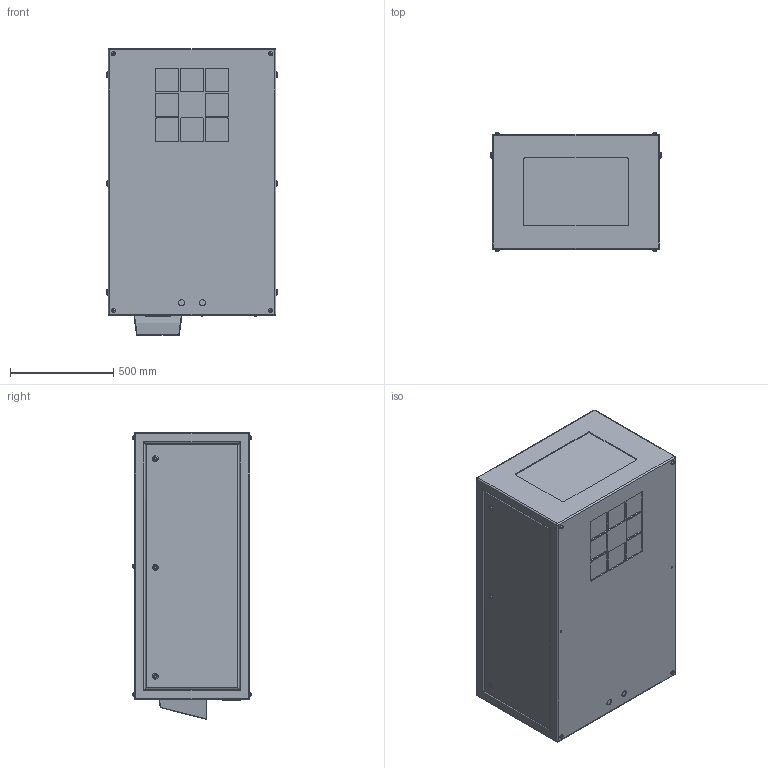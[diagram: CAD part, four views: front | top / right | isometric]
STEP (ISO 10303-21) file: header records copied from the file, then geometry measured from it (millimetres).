
FILE_DESCRIPTION (( 'STEP AP214' ), '1' );
FILE_NAME ('Cyclone 55.210.L.xx R08.STEP', '2020-04-24T15:36:59', ( '' ), ( '' ), 'SwSTEP 2.0', 'SolidWorks 2018', '' );
FILE_SCHEMA (( 'AUTOMOTIVE_DESIGN' ));
Length unit declared in the file: inch
Products named in the file (1): Cyclone 55.210.L.xx R08
Bounding box: 825.5 x 573.53 x 1390.65 mm (x, y, z)
Volume: 586493800 mm3; surface area: 4981044.2 mm2
Topology: 1 solids, 1 shells, 479 faces, 1118 edges, 712 vertices
Faces by surface type: plane 257, cylinder 170, torus 44, sphere 8
Entity records: 17242 total; most frequent: DIRECTION 2450, CARTESIAN_POINT 2350, ORIENTED_EDGE 2220, EDGE_CURVE 1110, AXIS2_PLACEMENT_3D 876, VERTEX_POINT 712, VECTOR 698, LINE 698
